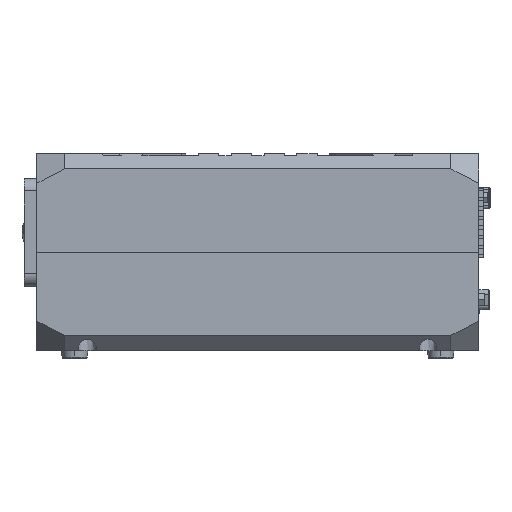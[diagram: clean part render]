
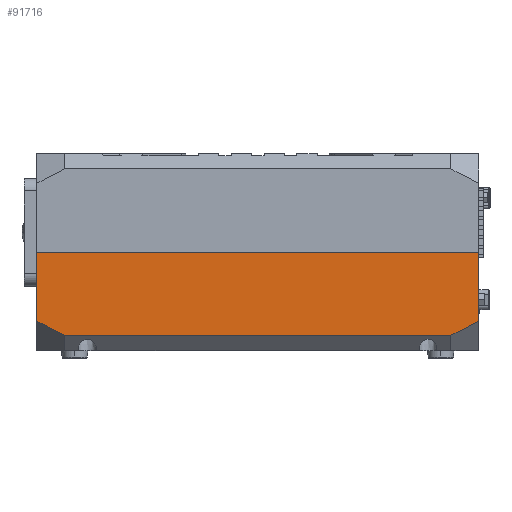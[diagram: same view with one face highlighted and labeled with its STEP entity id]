
A CAD part, left-side view. The second image highlights one B-rep face of the part: STEP entity #91716.
In plain terms, the highlighted planar face has unit normal (-1, 0, 0).
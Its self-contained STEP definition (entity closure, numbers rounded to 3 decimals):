
#16090 = CARTESIAN_POINT ( 'NONE',  ( -130., -125., 42. ) ) ;
#28920 = CARTESIAN_POINT ( 'NONE',  ( -130., 39., 9. ) ) ;
#32460 = CARTESIAN_POINT ( 'NONE',  ( -130., 67.855, 5.345 ) ) ;
#34408 = CARTESIAN_POINT ( 'NONE',  ( -130., -125., 42. ) ) ;
#34704 = DIRECTION ( 'NONE',  ( 0., 0., 1. ) ) ;
#34929 = CARTESIAN_POINT ( 'NONE',  ( -130., -125., 14.657 ) ) ;
#40726 = CARTESIAN_POINT ( 'NONE',  ( -130., 50., 14.657 ) ) ;
#45282 = PLANE ( 'NONE',  #72869 ) ;
#47537 = B_SPLINE_CURVE_WITH_KNOTS ( 'NONE', 1,
 ( #124696, #91524 ),
 .UNSPECIFIED., .F., .F.,
 ( 2, 2 ),
 ( 0., 27.343 ),
 .UNSPECIFIED. ) ;
#47826 = CARTESIAN_POINT ( 'NONE',  ( -130., -125., 14.657 ) ) ;
#60679 = B_SPLINE_CURVE_WITH_KNOTS ( 'NONE', 1,
 ( #142150, #28920 ),
 .UNSPECIFIED., .F., .F.,
 ( 2, 2 ),
 ( -78., 0. ),
 .UNSPECIFIED. ) ;
#67945 = FACE_OUTER_BOUND ( 'NONE', #73854, .T. ) ;
#68409 = CARTESIAN_POINT ( 'NONE',  ( -130., -114., 9. ) ) ;
#68998 = VERTEX_POINT ( 'NONE', #34408 ) ;
#70798 = CARTESIAN_POINT ( 'NONE',  ( -130., 39., 9. ) ) ;
#71371 = EDGE_CURVE ( 'NONE', #87556, #92611, #60679, .T. ) ;
#72869 = AXIS2_PLACEMENT_3D ( 'NONE', #32460, #138051, #34704 ) ;
#73854 = EDGE_LOOP ( 'NONE', ( #74063, #144530, #126765, #144900, #85663, #83339 ) ) ;
#74063 = ORIENTED_EDGE ( 'NONE', *, *, #110195, .F. ) ;
#75244 = EDGE_CURVE ( 'NONE', #112778, #87556, #82575, .T. ) ;
#78336 = CARTESIAN_POINT ( 'NONE',  ( -130., 50., 42. ) ) ;
#80406 = EDGE_CURVE ( 'NONE', #68998, #112778, #104333, .T. ) ;
#82375 = CARTESIAN_POINT ( 'NONE',  ( -130., 39., 9. ) ) ;
#82575 = B_SPLINE_CURVE_WITH_KNOTS ( 'NONE', 1,
 ( #100123, #68409 ),
 .UNSPECIFIED., .F., .F.,
 ( 2, 2 ),
 ( 0., 12.369 ),
 .UNSPECIFIED. ) ;
#83339 = ORIENTED_EDGE ( 'NONE', *, *, #92580, .F. ) ;
#85663 = ORIENTED_EDGE ( 'NONE', *, *, #80406, .F. ) ;
#87556 = VERTEX_POINT ( 'NONE', #106533 ) ;
#89841 = EDGE_CURVE ( 'NONE', #92611, #130430, #94355, .T. ) ;
#91524 = CARTESIAN_POINT ( 'NONE',  ( -130., 50., 42. ) ) ;
#91716 = ADVANCED_FACE ( 'NONE', ( #67945 ), #45282, .T. ) ;
#92580 = EDGE_CURVE ( 'NONE', #99214, #68998, #123912, .T. ) ;
#92611 = VERTEX_POINT ( 'NONE', #82375 ) ;
#93427 = CARTESIAN_POINT ( 'NONE',  ( -130., 50., 14.657 ) ) ;
#94355 = B_SPLINE_CURVE_WITH_KNOTS ( 'NONE', 1,
 ( #70798, #93427 ),
 .UNSPECIFIED., .F., .F.,
 ( 2, 2 ),
 ( 0., 12.369 ),
 .UNSPECIFIED. ) ;
#99214 = VERTEX_POINT ( 'NONE', #78336 ) ;
#100123 = CARTESIAN_POINT ( 'NONE',  ( -130., -125., 14.657 ) ) ;
#104333 = B_SPLINE_CURVE_WITH_KNOTS ( 'NONE', 1,
 ( #16090, #47826 ),
 .UNSPECIFIED., .F., .F.,
 ( 2, 2 ),
 ( -27.343, 0. ),
 .UNSPECIFIED. ) ;
#106533 = CARTESIAN_POINT ( 'NONE',  ( -130., -114., 9. ) ) ;
#110195 = EDGE_CURVE ( 'NONE', #130430, #99214, #47537, .T. ) ;
#112778 = VERTEX_POINT ( 'NONE', #34929 ) ;
#119249 = CARTESIAN_POINT ( 'NONE',  ( -130., 50., 42. ) ) ;
#123912 = B_SPLINE_CURVE_WITH_KNOTS ( 'NONE', 1,
 ( #119249, #140405 ),
 .UNSPECIFIED., .F., .F.,
 ( 2, 2 ),
 ( -100., 0. ),
 .UNSPECIFIED. ) ;
#124696 = CARTESIAN_POINT ( 'NONE',  ( -130., 50., 14.657 ) ) ;
#126765 = ORIENTED_EDGE ( 'NONE', *, *, #71371, .F. ) ;
#130430 = VERTEX_POINT ( 'NONE', #40726 ) ;
#138051 = DIRECTION ( 'NONE',  ( -1., 0., 0. ) ) ;
#140405 = CARTESIAN_POINT ( 'NONE',  ( -130., -125., 42. ) ) ;
#142150 = CARTESIAN_POINT ( 'NONE',  ( -130., -114., 9. ) ) ;
#144530 = ORIENTED_EDGE ( 'NONE', *, *, #89841, .F. ) ;
#144900 = ORIENTED_EDGE ( 'NONE', *, *, #75244, .F. ) ;
